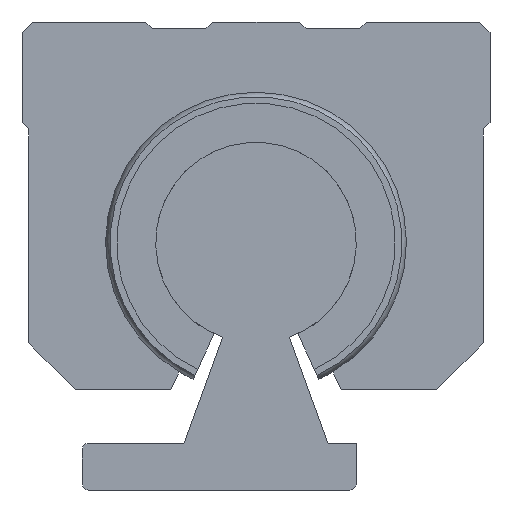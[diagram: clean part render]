
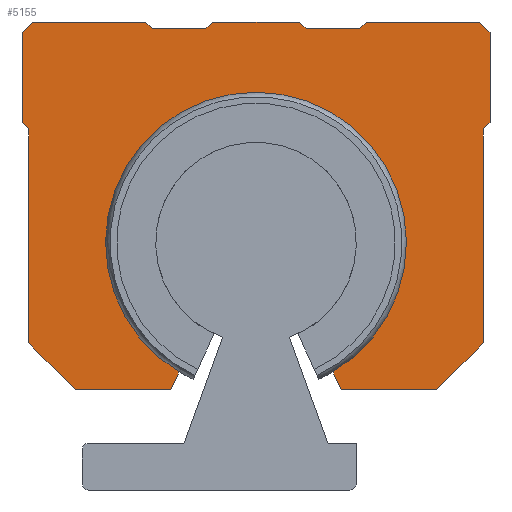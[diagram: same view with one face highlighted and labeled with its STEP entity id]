
A CAD part, left-side view. The second image highlights one B-rep face of the part: STEP entity #5155.
In plain terms, the highlighted planar face has unit normal (-1, 0, 0).
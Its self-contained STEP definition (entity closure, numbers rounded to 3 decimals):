
#3922=CARTESIAN_POINT('',(266.705,-11.5,17.661));
#3923=VERTEX_POINT('',#3922);
#3930=CARTESIAN_POINT('',(266.705,11.5,17.661));
#3931=VERTEX_POINT('',#3930);
#3932=CARTESIAN_POINT('',(266.705,0.0,37.0));
#3933=DIRECTION('',(-1.0,0.0,0.0));
#3934=DIRECTION('',(0.0,-1.0,0.0));
#3935=AXIS2_PLACEMENT_3D('',#3932,#3933,#3934);
#3936=CIRCLE('',#3935,22.5);
#3937=EDGE_CURVE('',#3923,#3931,#3936,.T.);
#4105=CARTESIAN_POINT('',(266.705,-34.,22.0));
#4106=VERTEX_POINT('',#4105);
#4113=CARTESIAN_POINT('',(266.705,-27.,15.0));
#4114=VERTEX_POINT('',#4113);
#4115=CARTESIAN_POINT('',(266.705,-34.,22.0));
#4116=DIRECTION('',(0.0,0.707,-0.707));
#4117=VECTOR('',#4116,9.899);
#4118=LINE('',#4115,#4117);
#4119=EDGE_CURVE('',#4106,#4114,#4118,.T.);
#4144=CARTESIAN_POINT('',(266.705,-34.0,54.0));
#4145=VERTEX_POINT('',#4144);
#4152=CARTESIAN_POINT('',(266.705,-34.0,54.0));
#4153=DIRECTION('',(0.0,0.0,-1.0));
#4154=VECTOR('',#4153,32.0);
#4155=LINE('',#4152,#4154);
#4156=EDGE_CURVE('',#4145,#4106,#4155,.T.);
#4342=CARTESIAN_POINT('',(266.705,27.,15.0));
#4343=VERTEX_POINT('',#4342);
#4350=CARTESIAN_POINT('',(266.705,34.,22.0));
#4351=VERTEX_POINT('',#4350);
#4352=CARTESIAN_POINT('',(266.705,27.,15.0));
#4353=DIRECTION('',(0.0,0.707,0.707));
#4354=VECTOR('',#4353,9.899);
#4355=LINE('',#4352,#4354);
#4356=EDGE_CURVE('',#4343,#4351,#4355,.T.);
#4374=CARTESIAN_POINT('',(266.705,12.741,15.));
#4375=VERTEX_POINT('',#4374);
#4382=CARTESIAN_POINT('',(266.705,12.741,15.));
#4383=DIRECTION('',(0.0,1.0,0.0));
#4384=VECTOR('',#4383,14.259);
#4385=LINE('',#4382,#4384);
#4386=EDGE_CURVE('',#4375,#4343,#4385,.T.);
#4396=CARTESIAN_POINT('',(266.705,-6.5,70.0));
#4397=VERTEX_POINT('',#4396);
#4398=CARTESIAN_POINT('',(266.705,-7.5,69.0));
#4399=VERTEX_POINT('',#4398);
#4400=CARTESIAN_POINT('',(266.705,-6.5,70.0));
#4401=DIRECTION('',(0.0,-0.707,-0.707));
#4402=VECTOR('',#4401,1.414);
#4403=LINE('',#4400,#4402);
#4404=EDGE_CURVE('',#4397,#4399,#4403,.T.);
#4428=CARTESIAN_POINT('',(266.705,-15.5,69.0));
#4429=VERTEX_POINT('',#4428);
#4430=CARTESIAN_POINT('',(266.705,-7.5,69.0));
#4431=DIRECTION('',(0.0,-1.0,0.0));
#4432=VECTOR('',#4431,8.);
#4433=LINE('',#4430,#4432);
#4434=EDGE_CURVE('',#4399,#4429,#4433,.T.);
#4451=CARTESIAN_POINT('',(266.705,16.5,70.0));
#4452=VERTEX_POINT('',#4451);
#4453=CARTESIAN_POINT('',(266.705,15.5,69.0));
#4454=VERTEX_POINT('',#4453);
#4455=CARTESIAN_POINT('',(266.705,16.5,70.0));
#4456=DIRECTION('',(0.0,-0.707,-0.707));
#4457=VECTOR('',#4456,1.414);
#4458=LINE('',#4455,#4457);
#4459=EDGE_CURVE('',#4452,#4454,#4458,.T.);
#4483=CARTESIAN_POINT('',(266.705,7.5,69.0));
#4484=VERTEX_POINT('',#4483);
#4485=CARTESIAN_POINT('',(266.705,15.5,69.0));
#4486=DIRECTION('',(0.0,-1.0,0.0));
#4487=VECTOR('',#4486,8.);
#4488=LINE('',#4485,#4487);
#4489=EDGE_CURVE('',#4454,#4484,#4488,.T.);
#4506=CARTESIAN_POINT('',(266.705,6.5,70.0));
#4507=VERTEX_POINT('',#4506);
#4508=CARTESIAN_POINT('',(266.705,7.5,69.0));
#4509=DIRECTION('',(0.0,-0.707,0.707));
#4510=VECTOR('',#4509,1.414);
#4511=LINE('',#4508,#4510);
#4512=EDGE_CURVE('',#4484,#4507,#4511,.T.);
#4530=CARTESIAN_POINT('',(266.705,-16.5,70.0));
#4531=VERTEX_POINT('',#4530);
#4532=CARTESIAN_POINT('',(266.705,-15.5,69.0));
#4533=DIRECTION('',(0.0,-0.707,0.707));
#4534=VECTOR('',#4533,1.414);
#4535=LINE('',#4532,#4534);
#4536=EDGE_CURVE('',#4429,#4531,#4535,.T.);
#4554=CARTESIAN_POINT('',(266.705,34.0,54.0));
#4555=VERTEX_POINT('',#4554);
#4556=CARTESIAN_POINT('',(266.705,35.0,55.0));
#4557=VERTEX_POINT('',#4556);
#4558=CARTESIAN_POINT('',(266.705,34.0,54.0));
#4559=DIRECTION('',(0.0,0.707,0.707));
#4560=VECTOR('',#4559,1.414);
#4561=LINE('',#4558,#4560);
#4562=EDGE_CURVE('',#4555,#4557,#4561,.T.);
#4585=CARTESIAN_POINT('',(266.705,-35.0,55.0));
#4586=VERTEX_POINT('',#4585);
#4587=CARTESIAN_POINT('',(266.705,-35.0,55.0));
#4588=DIRECTION('',(0.0,0.707,-0.707));
#4589=VECTOR('',#4588,1.414);
#4590=LINE('',#4587,#4589);
#4591=EDGE_CURVE('',#4586,#4145,#4590,.T.);
#4610=CARTESIAN_POINT('',(266.705,35.0,68.5));
#4611=VERTEX_POINT('',#4610);
#4618=CARTESIAN_POINT('',(266.705,33.5,70.0));
#4619=VERTEX_POINT('',#4618);
#4620=CARTESIAN_POINT('',(266.705,35.0,68.5));
#4621=DIRECTION('',(0.0,-0.707,0.707));
#4622=VECTOR('',#4621,2.121);
#4623=LINE('',#4620,#4622);
#4624=EDGE_CURVE('',#4611,#4619,#4623,.T.);
#4643=CARTESIAN_POINT('',(266.705,35.0,55.0));
#4644=DIRECTION('',(0.0,0.0,1.0));
#4645=VECTOR('',#4644,13.5);
#4646=LINE('',#4643,#4645);
#4647=EDGE_CURVE('',#4557,#4611,#4646,.T.);
#4658=CARTESIAN_POINT('',(266.705,-33.5,70.0));
#4659=VERTEX_POINT('',#4658);
#4666=CARTESIAN_POINT('',(266.705,-35.0,68.5));
#4667=VERTEX_POINT('',#4666);
#4668=CARTESIAN_POINT('',(266.705,-33.5,70.0));
#4669=DIRECTION('',(0.0,-0.707,-0.707));
#4670=VECTOR('',#4669,2.121);
#4671=LINE('',#4668,#4670);
#4672=EDGE_CURVE('',#4659,#4667,#4671,.T.);
#4691=CARTESIAN_POINT('',(266.705,-16.5,70.0));
#4692=DIRECTION('',(0.0,-1.0,0.0));
#4693=VECTOR('',#4692,17.);
#4694=LINE('',#4691,#4693);
#4695=EDGE_CURVE('',#4531,#4659,#4694,.T.);
#5028=CARTESIAN_POINT('',(266.705,34.,22.0));
#5029=DIRECTION('',(0.0,0.0,1.0));
#5030=VECTOR('',#5029,32.0);
#5031=LINE('',#5028,#5030);
#5032=EDGE_CURVE('',#4351,#4555,#5031,.T.);
#5052=CARTESIAN_POINT('',(266.705,11.5,17.661));
#5053=DIRECTION('',(0.0,0.423,-0.906));
#5054=VECTOR('',#5053,2.936);
#5055=LINE('',#5052,#5054);
#5056=EDGE_CURVE('',#3931,#4375,#5055,.T.);
#5068=CARTESIAN_POINT('',(266.705,-12.741,15.));
#5069=VERTEX_POINT('',#5068);
#5076=CARTESIAN_POINT('',(266.705,-12.741,15.));
#5077=DIRECTION('',(0.0,0.423,0.906));
#5078=VECTOR('',#5077,2.936);
#5079=LINE('',#5076,#5078);
#5080=EDGE_CURVE('',#5069,#3923,#5079,.T.);
#5098=CARTESIAN_POINT('',(266.705,-27.,15.0));
#5099=DIRECTION('',(0.0,1.0,0.0));
#5100=VECTOR('',#5099,14.259);
#5101=LINE('',#5098,#5100);
#5102=EDGE_CURVE('',#4114,#5069,#5101,.T.);
#5109=CARTESIAN_POINT('',(266.705,0.0,42.824));
#5110=DIRECTION('',(1.0,0.0,0.0));
#5111=DIRECTION('',(0.0,0.0,-1.0));
#5112=AXIS2_PLACEMENT_3D('',#5109,#5110,#5111);
#5113=PLANE('',#5112);
#5114=ORIENTED_EDGE('',*,*,#4119,.F.);
#5115=ORIENTED_EDGE('',*,*,#4156,.F.);
#5116=ORIENTED_EDGE('',*,*,#4591,.F.);
#5117=CARTESIAN_POINT('',(266.705,-35.0,68.5));
#5118=DIRECTION('',(0.0,0.0,-1.0));
#5119=VECTOR('',#5118,13.5);
#5120=LINE('',#5117,#5119);
#5121=EDGE_CURVE('',#4667,#4586,#5120,.T.);
#5122=ORIENTED_EDGE('',*,*,#5121,.F.);
#5123=ORIENTED_EDGE('',*,*,#4672,.F.);
#5124=ORIENTED_EDGE('',*,*,#4695,.F.);
#5125=ORIENTED_EDGE('',*,*,#4536,.F.);
#5126=ORIENTED_EDGE('',*,*,#4434,.F.);
#5127=ORIENTED_EDGE('',*,*,#4404,.F.);
#5128=CARTESIAN_POINT('',(266.705,6.5,70.0));
#5129=DIRECTION('',(0.0,-1.0,0.0));
#5130=VECTOR('',#5129,13.);
#5131=LINE('',#5128,#5130);
#5132=EDGE_CURVE('',#4507,#4397,#5131,.T.);
#5133=ORIENTED_EDGE('',*,*,#5132,.F.);
#5134=ORIENTED_EDGE('',*,*,#4512,.F.);
#5135=ORIENTED_EDGE('',*,*,#4489,.F.);
#5136=ORIENTED_EDGE('',*,*,#4459,.F.);
#5137=CARTESIAN_POINT('',(266.705,33.5,70.0));
#5138=DIRECTION('',(0.0,-1.0,0.0));
#5139=VECTOR('',#5138,17.);
#5140=LINE('',#5137,#5139);
#5141=EDGE_CURVE('',#4619,#4452,#5140,.T.);
#5142=ORIENTED_EDGE('',*,*,#5141,.F.);
#5143=ORIENTED_EDGE('',*,*,#4624,.F.);
#5144=ORIENTED_EDGE('',*,*,#4647,.F.);
#5145=ORIENTED_EDGE('',*,*,#4562,.F.);
#5146=ORIENTED_EDGE('',*,*,#5032,.F.);
#5147=ORIENTED_EDGE('',*,*,#4356,.F.);
#5148=ORIENTED_EDGE('',*,*,#4386,.F.);
#5149=ORIENTED_EDGE('',*,*,#5056,.F.);
#5150=ORIENTED_EDGE('',*,*,#3937,.F.);
#5151=ORIENTED_EDGE('',*,*,#5080,.F.);
#5152=ORIENTED_EDGE('',*,*,#5102,.F.);
#5153=EDGE_LOOP('',(#5114,#5115,#5116,#5122,#5123,#5124,#5125,#5126,#5127,#5133,#5134,#5135,#5136,#5142,#5143,#5144,#5145,#5146,#5147,#5148,#5149,#5150,#5151,#5152));
#5154=FACE_OUTER_BOUND('',#5153,.T.);
#5155=ADVANCED_FACE('',(#5154),#5113,.F.);
